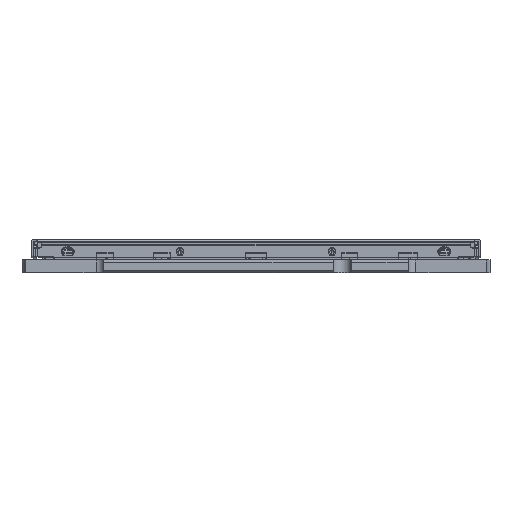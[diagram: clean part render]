
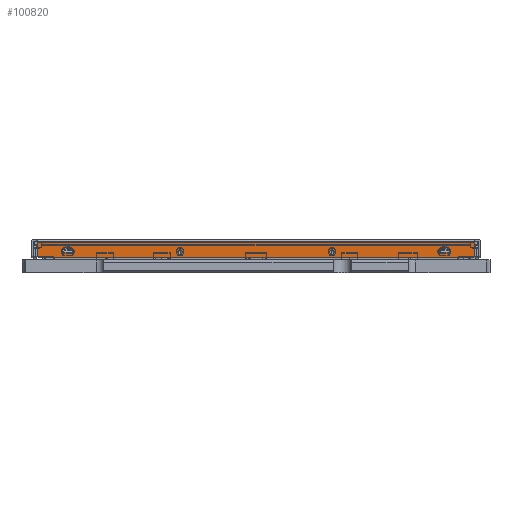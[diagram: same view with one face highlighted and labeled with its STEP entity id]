
A CAD part, left-side view. The second image highlights one B-rep face of the part: STEP entity #100820.
In plain terms, the highlighted planar face has unit normal (-1, 0, 0).
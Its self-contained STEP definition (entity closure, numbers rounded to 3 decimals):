
#91429=CARTESIAN_POINT('',(4.35,-0.83,4.95));
#91430=DIRECTION('',(-1.,0.,0.));
#91431=DIRECTION('',(0.,1.,0.));
#91432=AXIS2_PLACEMENT_3D('',#91429,#91430,#91431);
#91437=CARTESIAN_POINT('',(4.35,-0.83,4.95));
#91438=DIRECTION('',(-1.,0.,0.));
#91439=DIRECTION('',(0.,-1.,0.));
#91440=AXIS2_PLACEMENT_3D('',#91437,#91438,#91439);
#91445=CARTESIAN_POINT('',(4.35,-0.83,-4.95));
#91446=DIRECTION('',(-1.,0.,0.));
#91447=DIRECTION('',(0.,1.,0.));
#91448=AXIS2_PLACEMENT_3D('',#91445,#91446,#91447);
#91453=CARTESIAN_POINT('',(4.35,-0.83,-4.95));
#91454=DIRECTION('',(-1.,0.,0.));
#91455=DIRECTION('',(0.,-1.,0.));
#91456=AXIS2_PLACEMENT_3D('',#91453,#91454,#91455);
#91461=DIRECTION('',(0.,0.,1.));
#91462=VECTOR('',#91461,0.78);
#91463=CARTESIAN_POINT('',(4.35,-0.85,11.885));
#91464=LINE('',#91463,#91462);
#91468=CARTESIAN_POINT('',(4.35,-0.498,12.395));
#91469=CARTESIAN_POINT('',(4.35,-0.498,12.421));
#91470=CARTESIAN_POINT('',(4.35,-0.507,12.472));
#91471=CARTESIAN_POINT('',(4.35,-0.552,12.547));
#91472=CARTESIAN_POINT('',(4.35,-0.627,12.61));
#91473=CARTESIAN_POINT('',(4.35,-0.727,12.653));
#91474=CARTESIAN_POINT('',(4.35,-0.807,12.665));
#91475=CARTESIAN_POINT('',(4.35,-0.85,12.665));
#91480=DIRECTION('',(0.,0.,1.));
#91481=VECTOR('',#91480,0.24);
#91482=CARTESIAN_POINT('',(4.35,-0.498,12.155));
#91483=LINE('',#91482,#91481);
#91487=CARTESIAN_POINT('',(4.35,-0.85,11.885));
#91488=CARTESIAN_POINT('',(4.35,-0.807,11.885));
#91489=CARTESIAN_POINT('',(4.35,-0.727,11.897));
#91490=CARTESIAN_POINT('',(4.35,-0.627,11.94));
#91491=CARTESIAN_POINT('',(4.35,-0.552,12.003));
#91492=CARTESIAN_POINT('',(4.35,-0.507,12.078));
#91493=CARTESIAN_POINT('',(4.35,-0.498,12.129));
#91494=CARTESIAN_POINT('',(4.35,-0.498,12.155));
#91499=DIRECTION('',(0.,0.,1.));
#91500=VECTOR('',#91499,0.78);
#91501=CARTESIAN_POINT('',(4.35,-0.85,-12.665));
#91502=LINE('',#91501,#91500);
#91506=CARTESIAN_POINT('',(4.35,-0.498,-12.155));
#91507=CARTESIAN_POINT('',(4.35,-0.498,-12.129));
#91508=CARTESIAN_POINT('',(4.35,-0.507,-12.078));
#91509=CARTESIAN_POINT('',(4.35,-0.552,-12.003));
#91510=CARTESIAN_POINT('',(4.35,-0.627,-11.94));
#91511=CARTESIAN_POINT('',(4.35,-0.727,-11.897));
#91512=CARTESIAN_POINT('',(4.35,-0.807,-11.885));
#91513=CARTESIAN_POINT('',(4.35,-0.85,-11.885));
#91518=DIRECTION('',(0.,0.,1.));
#91519=VECTOR('',#91518,0.24);
#91520=CARTESIAN_POINT('',(4.35,-0.498,-12.395));
#91521=LINE('',#91520,#91519);
#91525=CARTESIAN_POINT('',(4.35,-0.85,-12.665));
#91526=CARTESIAN_POINT('',(4.35,-0.807,-12.665));
#91527=CARTESIAN_POINT('',(4.35,-0.727,-12.653));
#91528=CARTESIAN_POINT('',(4.35,-0.627,-12.61));
#91529=CARTESIAN_POINT('',(4.35,-0.552,-12.547));
#91530=CARTESIAN_POINT('',(4.35,-0.507,-12.472));
#91531=CARTESIAN_POINT('',(4.35,-0.498,-12.421));
#91532=CARTESIAN_POINT('',(4.35,-0.498,-12.395));
#91537=CARTESIAN_POINT('',(4.35,-0.99,-14.07));
#91538=DIRECTION('',(-1.,0.,0.));
#91539=DIRECTION('',(0.,0.,-1.));
#91540=AXIS2_PLACEMENT_3D('',#91537,#91538,#91539);
#91545=DIRECTION('',(0.,-1.,0.));
#91546=VECTOR('',#91545,0.81);
#91547=CARTESIAN_POINT('',(4.35,-0.18,-14.27));
#91548=LINE('',#91547,#91546);
#91552=DIRECTION('',(0.,1.,0.));
#91553=VECTOR('',#91552,0.81);
#91554=CARTESIAN_POINT('',(4.35,-0.99,14.27));
#91555=LINE('',#91554,#91553);
#91559=CARTESIAN_POINT('',(4.35,-0.99,14.07));
#91560=DIRECTION('',(-1.,0.,0.));
#91561=DIRECTION('',(0.,-1.,0.));
#91562=AXIS2_PLACEMENT_3D('',#91559,#91560,#91561);
#91567=DIRECTION('',(0.,0.,1.));
#91568=VECTOR('',#91567,28.14);
#91569=CARTESIAN_POINT('',(4.35,-1.19,-14.07));
#91570=LINE('',#91569,#91568);
#92021=DIRECTION('',(0.,0.,-1.));
#92022=VECTOR('',#92021,28.54);
#92023=CARTESIAN_POINT('',(4.35,-0.18,14.27));
#92024=LINE('',#92023,#92022);
#94943=CARTESIAN_POINT('',(4.35,-0.18,14.27));
#94945=VERTEX_POINT('',#94943);
#94947=CARTESIAN_POINT('',(4.35,-0.18,-14.27));
#94948=VERTEX_POINT('',#94947);
#95131=CARTESIAN_POINT('',(4.35,-0.69,4.95));
#95132=CARTESIAN_POINT('',(4.35,-0.97,4.95));
#95133=VERTEX_POINT('',#95131);
#95134=VERTEX_POINT('',#95132);
#95143=CARTESIAN_POINT('',(4.35,-0.69,-4.95));
#95144=CARTESIAN_POINT('',(4.35,-0.97,-4.95));
#95145=VERTEX_POINT('',#95143);
#95146=VERTEX_POINT('',#95144);
#95261=CARTESIAN_POINT('',(4.35,-0.85,11.885));
#95262=CARTESIAN_POINT('',(4.35,-0.85,12.665));
#95263=VERTEX_POINT('',#95261);
#95264=VERTEX_POINT('',#95262);
#95265=VERTEX_POINT('',#91494);
#95266=CARTESIAN_POINT('',(4.35,-0.498,12.395));
#95267=VERTEX_POINT('',#95266);
#95283=CARTESIAN_POINT('',(4.35,-0.85,-12.665));
#95284=CARTESIAN_POINT('',(4.35,-0.85,-11.885));
#95285=VERTEX_POINT('',#95283);
#95286=VERTEX_POINT('',#95284);
#95287=VERTEX_POINT('',#91532);
#95288=CARTESIAN_POINT('',(4.35,-0.498,-12.155));
#95289=VERTEX_POINT('',#95288);
#96137=CARTESIAN_POINT('',(4.35,-0.99,-14.27));
#96138=CARTESIAN_POINT('',(4.35,-1.19,-14.07));
#96139=VERTEX_POINT('',#96137);
#96140=VERTEX_POINT('',#96138);
#96145=CARTESIAN_POINT('',(4.35,-1.19,14.07));
#96146=CARTESIAN_POINT('',(4.35,-0.99,14.27));
#96147=VERTEX_POINT('',#96145);
#96148=VERTEX_POINT('',#96146);
#100771=CARTESIAN_POINT('',(4.35,0.,-14.27));
#100772=DIRECTION('',(-1.,0.,0.));
#100773=DIRECTION('',(0.,0.,-1.));
#100774=AXIS2_PLACEMENT_3D('',#100771,#100772,#100773);
#100775=PLANE('',#100774);
#100777=ORIENTED_EDGE('',*,*,#100776,.F.);
#100779=ORIENTED_EDGE('',*,*,#100778,.F.);
#100781=ORIENTED_EDGE('',*,*,#100780,.F.);
#100782=ORIENTED_EDGE('',*,*,#100748,.F.);
#100783=ORIENTED_EDGE('',*,*,#100761,.F.);
#100785=ORIENTED_EDGE('',*,*,#100784,.F.);
#100786=EDGE_LOOP('',(#100777,#100779,#100781,#100782,#100783,#100785));
#100787=FACE_OUTER_BOUND('',#100786,.F.);
#100789=ORIENTED_EDGE('',*,*,#100788,.T.);
#100791=ORIENTED_EDGE('',*,*,#100790,.T.);
#100792=EDGE_LOOP('',(#100789,#100791));
#100793=FACE_BOUND('',#100792,.F.);
#100795=ORIENTED_EDGE('',*,*,#100794,.T.);
#100797=ORIENTED_EDGE('',*,*,#100796,.F.);
#100799=ORIENTED_EDGE('',*,*,#100798,.F.);
#100801=ORIENTED_EDGE('',*,*,#100800,.F.);
#100802=EDGE_LOOP('',(#100795,#100797,#100799,#100801));
#100803=FACE_BOUND('',#100802,.F.);
#100805=ORIENTED_EDGE('',*,*,#100804,.T.);
#100807=ORIENTED_EDGE('',*,*,#100806,.F.);
#100809=ORIENTED_EDGE('',*,*,#100808,.F.);
#100811=ORIENTED_EDGE('',*,*,#100810,.F.);
#100812=EDGE_LOOP('',(#100805,#100807,#100809,#100811));
#100813=FACE_BOUND('',#100812,.F.);
#100815=ORIENTED_EDGE('',*,*,#100814,.T.);
#100817=ORIENTED_EDGE('',*,*,#100816,.T.);
#100818=EDGE_LOOP('',(#100815,#100817));
#100819=FACE_BOUND('',#100818,.F.);
#100820=ADVANCED_FACE('',(#100787,#100793,#100803,#100813,#100819),#100775,.T.);
#91433=CIRCLE('',#91432,0.14);
#91441=CIRCLE('',#91440,0.14);
#91449=CIRCLE('',#91448,0.14);
#91457=CIRCLE('',#91456,0.14);
#91476=B_SPLINE_CURVE_WITH_KNOTS('',3,(#91468,#91469,#91470,#91471,#91472,
#91473,#91474,#91475),.UNSPECIFIED.,.F.,.F.,(4,1,1,1,1,4),(0.,0.2,0.4,
0.6,0.8,1.),.UNSPECIFIED.);
#91495=B_SPLINE_CURVE_WITH_KNOTS('',3,(#91487,#91488,#91489,#91490,#91491,
#91492,#91493,#91494),.UNSPECIFIED.,.F.,.F.,(4,1,1,1,1,4),(0.,0.2,0.4,
0.6,0.8,1.),.UNSPECIFIED.);
#91514=B_SPLINE_CURVE_WITH_KNOTS('',3,(#91506,#91507,#91508,#91509,#91510,
#91511,#91512,#91513),.UNSPECIFIED.,.F.,.F.,(4,1,1,1,1,4),(0.,0.2,0.4,
0.6,0.8,1.),.UNSPECIFIED.);
#91533=B_SPLINE_CURVE_WITH_KNOTS('',3,(#91525,#91526,#91527,#91528,#91529,
#91530,#91531,#91532),.UNSPECIFIED.,.F.,.F.,(4,1,1,1,1,4),(0.,0.2,0.4,
0.6,0.8,1.),.UNSPECIFIED.);
#91541=CIRCLE('',#91540,0.2);
#91563=CIRCLE('',#91562,0.2);
#100748=EDGE_CURVE('',#96148,#94945,#91555,.T.);
#100761=EDGE_CURVE('',#96147,#96148,#91563,.T.);
#100776=EDGE_CURVE('',#96139,#96140,#91541,.T.);
#100778=EDGE_CURVE('',#94948,#96139,#91548,.T.);
#100780=EDGE_CURVE('',#94945,#94948,#92024,.T.);
#100784=EDGE_CURVE('',#96140,#96147,#91570,.T.);
#100788=EDGE_CURVE('',#95145,#95146,#91449,.T.);
#100790=EDGE_CURVE('',#95146,#95145,#91457,.T.);
#100794=EDGE_CURVE('',#95263,#95264,#91464,.T.);
#100796=EDGE_CURVE('',#95267,#95264,#91476,.T.);
#100798=EDGE_CURVE('',#95265,#95267,#91483,.T.);
#100800=EDGE_CURVE('',#95263,#95265,#91495,.T.);
#100804=EDGE_CURVE('',#95285,#95286,#91502,.T.);
#100806=EDGE_CURVE('',#95289,#95286,#91514,.T.);
#100808=EDGE_CURVE('',#95287,#95289,#91521,.T.);
#100810=EDGE_CURVE('',#95285,#95287,#91533,.T.);
#100814=EDGE_CURVE('',#95133,#95134,#91433,.T.);
#100816=EDGE_CURVE('',#95134,#95133,#91441,.T.);
